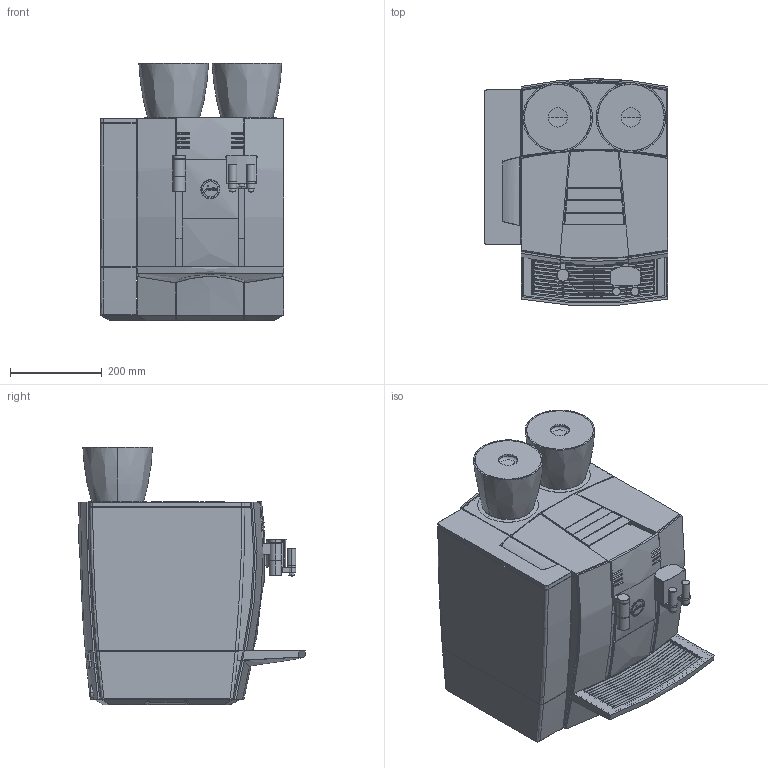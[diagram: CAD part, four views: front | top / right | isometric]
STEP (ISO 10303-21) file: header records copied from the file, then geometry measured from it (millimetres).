
FILE_DESCRIPTION(/* description */ (''),/* implementation_level */ '2;1');
FILE_NAME(/* name */ 'GIGA_X7_Professional_Design.stp',/* time_stamp */ '2012-11-29T16:30:45+01:00',/* author */ (''),/* organization */ (''),/* preprocessor_version */ 'ST-DEVELOPER v11',/* originating_system */ 'SIEMENS UGS NX 6.0',/* authorisation */ '');
FILE_SCHEMA (('AUTOMOTIVE_DESIGN { 1 0 10303 214 1 1 1 1 }'));
Products named in the file (1): GIGA_X7_Professional_Design
Bounding box: 400 x 495.48 x 562.5 mm (x, y, z)
Volume: 53130599.2 mm3; surface area: 3939404.2 mm2
Topology: 78 solids, 81 shells, 1493 faces, 4215 edges, 2791 vertices
Faces by surface type: plane 467, cylinder 371, bspline 363, revolution 99, torus 94, sphere 52, cone 47
Full cylindrical faces by diameter (mm): 6 x2, 10.3 x1, 10.8 x2, 15 x1, 26 x1, 27.5 x1, 39 x2, 39.5 x2, 41 x2, 41.5 x2, 132.5 x2
Entity records: 71464 total; most frequent: CARTESIAN_POINT 37189, ORIENTED_EDGE 8270, DIRECTION 5559, EDGE_CURVE 4135, VERTEX_POINT 2770, AXIS2_PLACEMENT_3D 2096, EDGE_LOOP 1573, ADVANCED_FACE 1485
